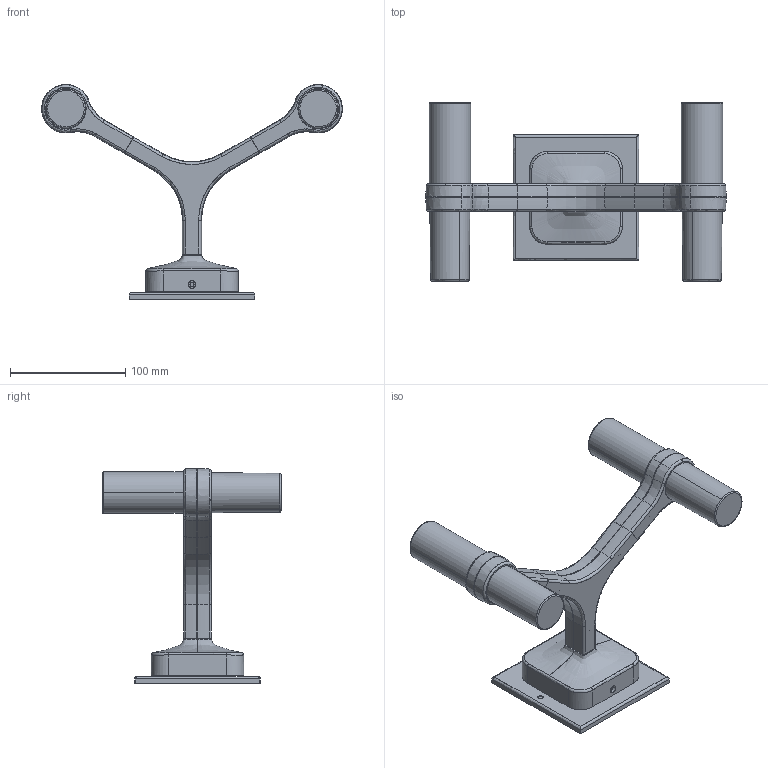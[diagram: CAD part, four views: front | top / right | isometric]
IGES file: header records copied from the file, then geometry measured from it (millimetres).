
Start section: SolidWorks IGES file using analytic representation for surfaces
Global section: file name: C:\Users\dtentori\Desktop\3d sito usa\CROWN WALL 2 luci\CROWN PARETE 2 LUCI cover plate.IGS; native system: SolidWorks 2016; preprocessor: SolidWorks 2016; author: dtentori; date: 170728.131715; units: millimetre
Bounding box: 260.74 x 154.5 x 186.44 mm (x, y, z)
Surface area: 186326.5 mm2 (no closed solid volume)
Topology: 0 solids, 0 shells, 3186 faces, 28253 edges, 28192 vertices
Faces by surface type: bspline 2421, revolution 765
